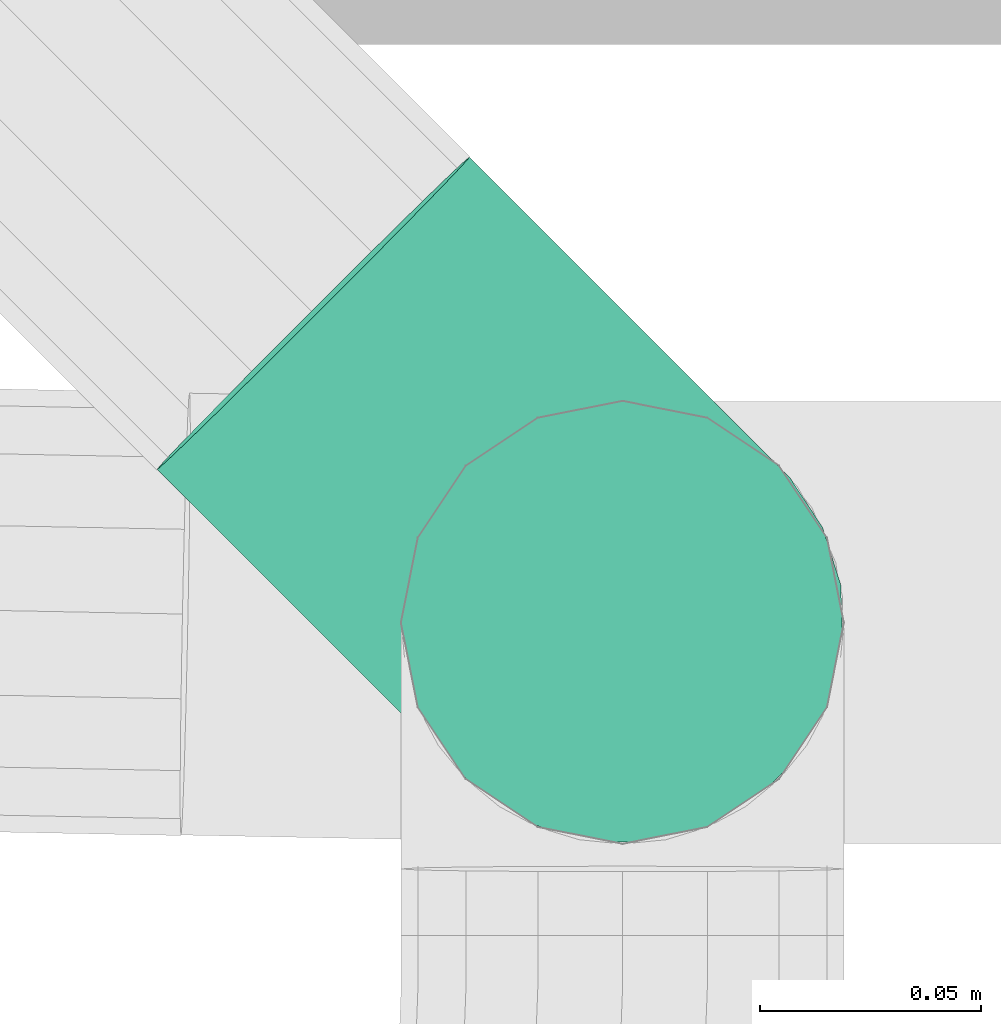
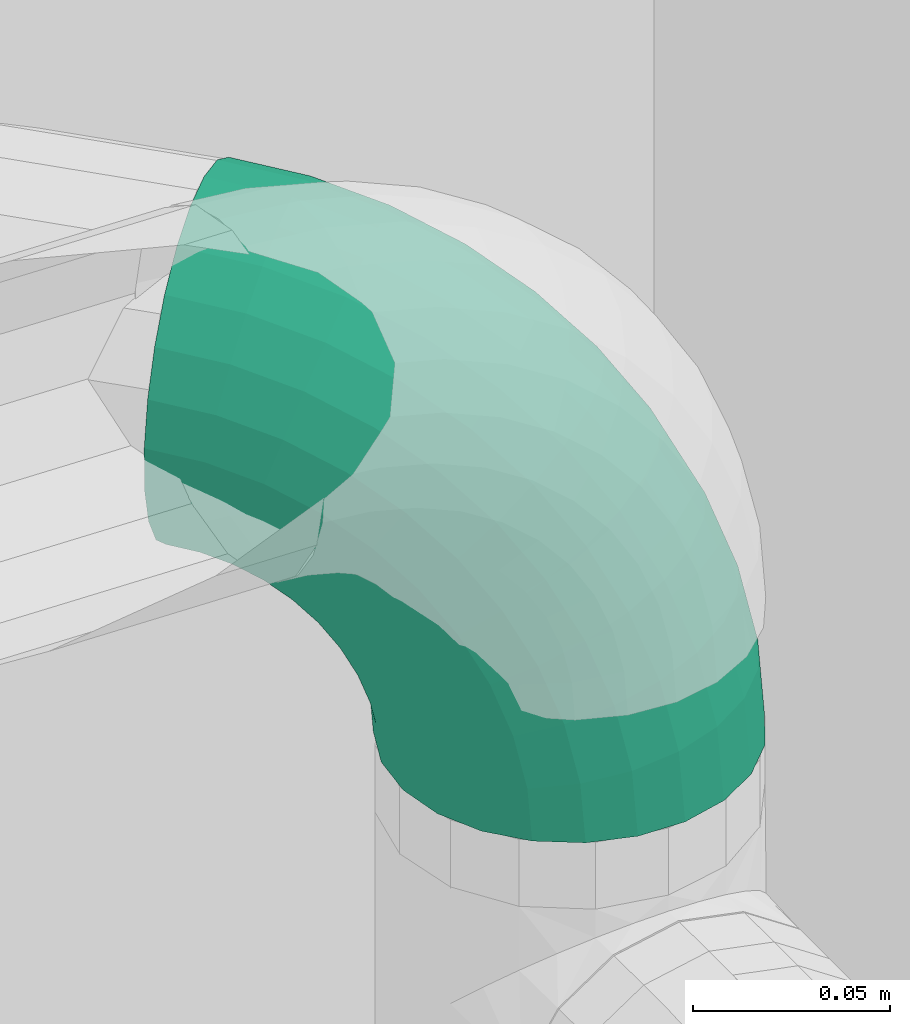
# One storey, part 17 of 22: 1 flow fitting.
"""IFC2X3 building model written with IfcOpenShell, lengths in metres."""

from ifc_helpers import new_model, entity, si_unit, converted_unit, derived_unit, money_unit, direction, frame, origin_with_axes, place, context, subcontext, project, spatial, open_shell, surface_model, material, type_object, element, save


model = new_model("IFC2X3")

# Units and contexts
model_context = context("Model", 3, precision=1e-05, world=origin_with_axes(), true_north=direction((0.0, 1.0)))
body_context = subcontext(model_context, "Body", "Model", "MODEL_VIEW", scale=1.0)
ifc_project = project(units=[si_unit("LENGTHUNIT", "METRE"), si_unit("AREAUNIT", "SQUARE_METRE"), si_unit("VOLUMEUNIT", "CUBIC_METRE"), si_unit("ABSORBEDDOSEUNIT", "GRAY"), si_unit("AMOUNTOFSUBSTANCEUNIT", "MOLE"), si_unit("DOSEEQUIVALENTUNIT", "SIEVERT"), si_unit("ELECTRICCAPACITANCEUNIT", "FARAD"), si_unit("ELECTRICCHARGEUNIT", "COULOMB"), si_unit("ELECTRICCONDUCTANCEUNIT", "SIEMENS"), si_unit("ELECTRICCURRENTUNIT", "AMPERE"), si_unit("ELECTRICRESISTANCEUNIT", "OHM"), si_unit("ELECTRICVOLTAGEUNIT", "VOLT"), si_unit("ENERGYUNIT", "JOULE"), si_unit("FORCEUNIT", "NEWTON"), si_unit("FREQUENCYUNIT", "HERTZ"), si_unit("ILLUMINANCEUNIT", "LUX"), si_unit("INDUCTANCEUNIT", "HENRY"), si_unit("LUMINOUSFLUXUNIT", "LUMEN"), si_unit("LUMINOUSINTENSITYUNIT", "CANDELA"), si_unit("MAGNETICFLUXDENSITYUNIT", "TESLA"), si_unit("MAGNETICFLUXUNIT", "WEBER"), si_unit("MASSUNIT", "GRAM"), converted_unit("PLANEANGLEUNIT", "degree", entity("IfcReal", 0.0174532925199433), si_unit("PLANEANGLEUNIT", "RADIAN"), dimensions=[0, 0, 0, 0, 0, 0, 0]), si_unit("POWERUNIT", "WATT"), si_unit("PRESSUREUNIT", "PASCAL"), si_unit("RADIOACTIVITYUNIT", "BECQUEREL"), si_unit("SOLIDANGLEUNIT", "STERADIAN"), si_unit("THERMODYNAMICTEMPERATUREUNIT", "KELVIN"), si_unit("TIMEUNIT", "SECOND"), derived_unit("ACCELERATIONUNIT", [(si_unit("LENGTHUNIT", "METRE"), 1), (si_unit("TIMEUNIT", "SECOND"), -2)]), derived_unit("ANGULARVELOCITYUNIT", [(converted_unit("PLANEANGLEUNIT", "degree", entity("IfcReal", 0.0174532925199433), si_unit("PLANEANGLEUNIT", "RADIAN"), dimensions=[0, 0, 0, 0, 0, 0, 0]), 1), (si_unit("TIMEUNIT", "SECOND"), -1)]), derived_unit("CURVATUREUNIT", [(converted_unit("PLANEANGLEUNIT", "degree", entity("IfcReal", 0.0174532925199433), si_unit("PLANEANGLEUNIT", "RADIAN"), dimensions=[0, 0, 0, 0, 0, 0, 0]), 1), (si_unit("LENGTHUNIT", "METRE"), -1)]), derived_unit("DYNAMICVISCOSITYUNIT", [(si_unit("PRESSUREUNIT", "PASCAL"), 1), (si_unit("TIMEUNIT", "SECOND"), 1)]), derived_unit("HEATFLUXDENSITYUNIT", [(si_unit("POWERUNIT", "WATT"), 1), (si_unit("LENGTHUNIT", "METRE"), -2)]), derived_unit("HEATINGVALUEUNIT", [(si_unit("ENERGYUNIT", "JOULE"), 1), (si_unit("MASSUNIT", "GRAM"), -1)]), derived_unit("INTEGERCOUNTRATEUNIT", [(si_unit("TIMEUNIT", "SECOND"), -1)]), derived_unit("IONCONCENTRATIONUNIT", [(si_unit("MASSUNIT", "GRAM"), 1), (si_unit("VOLUMEUNIT", "CUBIC_METRE"), -1)]), derived_unit("ISOTHERMALMOISTURECAPACITYUNIT", [(si_unit("VOLUMEUNIT", "CUBIC_METRE"), 1), (si_unit("MASSUNIT", "GRAM"), -1)]), derived_unit("KINEMATICVISCOSITYUNIT", [(si_unit("AREAUNIT", "SQUARE_METRE"), 1), (si_unit("TIMEUNIT", "SECOND"), -1)]), derived_unit("LINEARFORCEUNIT", [(si_unit("FORCEUNIT", "NEWTON"), 1), (si_unit("LENGTHUNIT", "METRE"), -1)]), derived_unit("LINEARMOMENTUNIT", [(si_unit("FORCEUNIT", "NEWTON"), 1), (si_unit("LENGTHUNIT", "METRE"), -1)]), derived_unit("LINEARSTIFFNESSUNIT", [(si_unit("FORCEUNIT", "NEWTON"), 1), (si_unit("LENGTHUNIT", "METRE"), -1)]), derived_unit("LINEARVELOCITYUNIT", [(si_unit("LENGTHUNIT", "METRE"), 1), (si_unit("TIMEUNIT", "SECOND"), -1)]), derived_unit("LUMINOUSINTENSITYDISTRIBUTIONUNIT", [(si_unit("LUMINOUSINTENSITYUNIT", "CANDELA"), 1), (si_unit("LUMINOUSFLUXUNIT", "LUMEN"), -1)]), derived_unit("MASSDENSITYUNIT", [(si_unit("MASSUNIT", "GRAM"), 1), (si_unit("VOLUMEUNIT", "CUBIC_METRE"), -1)]), derived_unit("MASSFLOWRATEUNIT", [(si_unit("MASSUNIT", "GRAM"), 1), (si_unit("TIMEUNIT", "SECOND"), -1)]), derived_unit("MASSPERLENGTHUNIT", [(si_unit("MASSUNIT", "GRAM"), 1), (si_unit("LENGTHUNIT", "METRE"), -1)]), derived_unit("MODULUSOFELASTICITYUNIT", [(si_unit("FORCEUNIT", "NEWTON"), 1), (si_unit("AREAUNIT", "SQUARE_METRE"), -1)]), derived_unit("MODULUSOFLINEARSUBGRADEREACTIONUNIT", [(si_unit("FORCEUNIT", "NEWTON"), 1), (si_unit("LENGTHUNIT", "METRE"), -2)]), derived_unit("MODULUSOFROTATIONALSUBGRADEREACTIONUNIT", [(si_unit("FORCEUNIT", "NEWTON"), 1), (si_unit("LENGTHUNIT", "METRE"), 1)]), derived_unit("MODULUSOFSUBGRADEREACTIONUNIT", [(si_unit("FORCEUNIT", "NEWTON"), 1), (si_unit("VOLUMEUNIT", "CUBIC_METRE"), -1)]), derived_unit("MOISTUREDIFFUSIVITYUNIT", [(si_unit("VOLUMEUNIT", "CUBIC_METRE"), 1), (si_unit("TIMEUNIT", "SECOND"), -1)]), derived_unit("MOLECULARWEIGHTUNIT", [(si_unit("MASSUNIT", "GRAM"), 1), (si_unit("AMOUNTOFSUBSTANCEUNIT", "MOLE"), -1)]), derived_unit("PLANARFORCEUNIT", [(si_unit("FORCEUNIT", "NEWTON"), 1), (si_unit("LENGTHUNIT", "METRE"), -2)]), derived_unit("ROTATIONALFREQUENCYUNIT", [(si_unit("TIMEUNIT", "SECOND"), -1)]), derived_unit("ROTATIONALMASSUNIT", [(si_unit("MASSUNIT", "GRAM"), 1), (si_unit("LENGTHUNIT", "METRE"), 2)]), derived_unit("ROTATIONALSTIFFNESSUNIT", [(si_unit("FORCEUNIT", "NEWTON"), 1), (si_unit("LENGTHUNIT", "METRE"), 1), (converted_unit("PLANEANGLEUNIT", "degree", entity("IfcReal", 0.0174532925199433), si_unit("PLANEANGLEUNIT", "RADIAN"), dimensions=[0, 0, 0, 0, 0, 0, 0]), -1)]), derived_unit("SECTIONAREAINTEGRALUNIT", [(si_unit("LENGTHUNIT", "METRE"), 5)]), derived_unit("SECTIONMODULUSUNIT", [(si_unit("LENGTHUNIT", "METRE"), 3)]), derived_unit("SHEARMODULUSUNIT", [(si_unit("FORCEUNIT", "NEWTON"), 1), (si_unit("AREAUNIT", "SQUARE_METRE"), -1)]), derived_unit("SOUNDPOWERUNIT", [(si_unit("ENERGYUNIT", "JOULE"), 1), (si_unit("TIMEUNIT", "SECOND"), -1)]), derived_unit("SPECIFICHEATCAPACITYUNIT", [(si_unit("FORCEUNIT", "NEWTON"), 1), (si_unit("MASSUNIT", "GRAM"), -1), (si_unit("THERMODYNAMICTEMPERATUREUNIT", "KELVIN"), -1)]), derived_unit("TEMPERATUREGRADIENTUNIT", [(si_unit("THERMODYNAMICTEMPERATUREUNIT", "KELVIN"), 1), (si_unit("LENGTHUNIT", "METRE"), -1)]), derived_unit("THERMALADMITTANCEUNIT", [(si_unit("POWERUNIT", "WATT"), 1), (si_unit("AREAUNIT", "SQUARE_METRE"), -1), (si_unit("THERMODYNAMICTEMPERATUREUNIT", "KELVIN"), -1)]), derived_unit("THERMALCONDUCTANCEUNIT", [(si_unit("POWERUNIT", "WATT"), 1), (si_unit("LENGTHUNIT", "METRE"), -1), (si_unit("THERMODYNAMICTEMPERATUREUNIT", "KELVIN"), -1)]), derived_unit("THERMALEXPANSIONCOEFFICIENTUNIT", [(si_unit("THERMODYNAMICTEMPERATUREUNIT", "KELVIN"), -1)]), derived_unit("THERMALRESISTANCEUNIT", [(si_unit("AREAUNIT", "SQUARE_METRE"), 1), (si_unit("POWERUNIT", "WATT"), -1)]), derived_unit("THERMALTRANSMITTANCEUNIT", [(si_unit("POWERUNIT", "WATT"), 1), (si_unit("AREAUNIT", "SQUARE_METRE"), -1), (si_unit("THERMODYNAMICTEMPERATUREUNIT", "KELVIN"), -1)]), derived_unit("TORQUEUNIT", [(si_unit("FORCEUNIT", "NEWTON"), 1), (si_unit("LENGTHUNIT", "METRE"), 1)]), derived_unit("VAPORPERMEABILITYUNIT", [(si_unit("MASSUNIT", "GRAM"), 1), (si_unit("TIMEUNIT", "SECOND"), -1)]), derived_unit("VOLUMETRICFLOWRATEUNIT", [(si_unit("VOLUMEUNIT", "CUBIC_METRE"), 1), (si_unit("TIMEUNIT", "SECOND"), -1)]), derived_unit("WARPINGCONSTANTUNIT", [(si_unit("LENGTHUNIT", "METRE"), 6)]), derived_unit("WARPINGMOMENTUNIT", [(si_unit("FORCEUNIT", "NEWTON"), 1), (si_unit("LENGTHUNIT", "METRE"), 2)]), money_unit("GBP")], contexts=[model_context])

# Site, building, storey, space
site_placement = place(None, origin_with_axes())
site = spatial("IfcSite", under=ifc_project, at=site_placement, Name="Site", CompositionType="ELEMENT")
building_placement = place(site_placement, origin_with_axes())
building = spatial("IfcBuilding", under=site, at=building_placement, Name="Building01", CompositionType="ELEMENT")
storey_placement = place(building_placement, frame((0.0, 0.0, 2.6), z_axis=(0.0, 0.0, 1.0), x_axis=(1.0, 0.0, 0.0)))
storey = spatial("IfcBuildingStorey", under=building, at=storey_placement, Name="MF", CompositionType="ELEMENT", Elevation=2.6)
space_placement = place(storey_placement, frame((15.816265, 6.196984, 0.0), z_axis=(0.0, 0.0, 1.0), x_axis=(1.0, 0.0, 0.0)))
space = spatial("IfcSpace", under=storey, at=space_placement, Name="WC", CompositionType="ELEMENT", InteriorOrExteriorSpace="NOTDEFINED")

# Flow fitting
ifc_material = material(Name="M_BSUK_ColdWater")
pipe_fitting_type = type_object("IfcPipeFittingType", Name="M-BmpElbow-DefaultElbow", PredefinedType="BEND")
placement = place(building_placement, origin_with_axes())
flow_fitting_placement = place(placement, frame((17.337119, 8.586738, 4.770046), z_axis=(0.00883814, -0.00883814, 0.99992188), x_axis=(0.70705155, -0.70705154, -0.01249902)))
element("IfcFlowFitting", 1, at=flow_fitting_placement, inside=space, type_object=pipe_fitting_type, material=ifc_material, Name="M-BmpElbow-DefaultElbow", ObjectType="M-BmpElbow-DefaultElbow", context=body_context, shape_type="SurfaceModel", body=[
    surface_model("IfcShellBasedSurfaceModel", [(0.008048, -0.01349, -0.048774), (0.0, -0.01349, -0.048146), (0.0, 0.0, -0.05), (0.00776, 0.0, -0.050606), (0.0159, -0.01349, -0.050644), (0.015332, 0.0, -0.052409), (0.023368, -0.01349, -0.05371), (0.022532, 0.0, -0.055365), (0.030269, -0.01349, -0.057897), (0.029187, 0.0, -0.059403), (0.036437, -0.01349, -0.063105), (0.035134, 0.0, -0.064424), (0.041721, -0.01349, -0.069207), (0.040229, 0.0, -0.070308), (0.045995, -0.01349, -0.076055), (0.04435, 0.0, -0.076912), (0.049154, -0.01349, -0.083484), (0.047396, 0.0, -0.084074), (0.051121, -0.01349, -0.091313), (0.049293, 0.0, -0.091623), (0.05185, -0.01349, -0.099352), (0.049996, 0.0, -0.099375), (0.00889, -0.025979, -0.043415), (0.0, -0.025979, -0.042721), (0.017564, -0.025979, -0.04548), (0.025813, -0.025979, -0.048867), (0.033436, -0.025979, -0.053493), (0.040248, -0.025979, -0.059245), (0.046086, -0.025979, -0.065986), (0.050807, -0.025979, -0.07355), (0.054296, -0.025979, -0.081756), (0.056469, -0.025979, -0.090404), (0.057275, -0.025979, -0.099284), (0.010223, -0.036542, -0.034926), (0.0, -0.036542, -0.034128), (0.020199, -0.036542, -0.037301), (0.029685, -0.036542, -0.041196), (0.038452, -0.036542, -0.046515), (0.046287, -0.036542, -0.053131), (0.053, -0.036542, -0.060883), (0.058429, -0.036542, -0.069582), (0.062442, -0.036542, -0.079019), (0.064941, -0.036542, -0.088964), (0.065867, -0.036542, -0.099177), (0.01195, -0.044394, -0.023936), (0.0, -0.044394, -0.023003), (0.02361, -0.044394, -0.026712), (0.034698, -0.044394, -0.031265), (0.044946, -0.044394, -0.037483), (0.054104, -0.044394, -0.045216), (0.061951, -0.044394, -0.054277), (0.068296, -0.044394, -0.064445), (0.072987, -0.044394, -0.075476), (0.075908, -0.044394, -0.0871), (0.076991, -0.044394, -0.099038), (0.013941, -0.048954, -0.011261), (0.0, -0.048954, -0.010173), (0.027544, -0.048954, -0.0145), (0.04048, -0.048954, -0.019811), (0.052435, -0.048954, -0.027065), (0.063119, -0.048954, -0.036087), (0.072274, -0.048954, -0.046657), (0.079677, -0.048954, -0.058521), (0.085149, -0.048954, -0.071389), (0.088558, -0.048954, -0.084951), (0.08982, -0.048954, -0.098877), (0.01605, -0.049883, 0.002159), (0.0, -0.049883, 0.003412), (0.03171, -0.049883, -0.00157), (0.046602, -0.049883, -0.007684), (0.060365, -0.049883, -0.016035), (0.072665, -0.049883, -0.026421), (0.083204, -0.049883, -0.03859), (0.091727, -0.049883, -0.052247), (0.098026, -0.049883, -0.067062), (0.101951, -0.049883, -0.082675), (0.103404, -0.049883, -0.098707), (0.018119, -0.047113, 0.015329), (0.0, -0.047113, 0.016744), (0.035798, -0.047113, 0.01112), (0.05261, -0.047113, 0.004218), (0.068147, -0.047113, -0.00521), (0.082033, -0.047113, -0.016935), (0.093931, -0.047113, -0.030673), (0.103552, -0.047113, -0.046091), (0.110664, -0.047113, -0.062816), (0.115094, -0.047113, -0.080441), (0.116735, -0.047113, -0.098541), (0.019995, -0.040848, 0.027273), (0.0, -0.040848, 0.028834), (0.039505, -0.040848, 0.022628), (0.058059, -0.040848, 0.01501), (0.075205, -0.040848, 0.004606), (0.090528, -0.040848, -0.008333), (0.103658, -0.040848, -0.023494), (0.114276, -0.040848, -0.040508), (0.122124, -0.040848, -0.058965), (0.127013, -0.040848, -0.078416), (0.128824, -0.040848, -0.09839), (0.021539, -0.031554, 0.037104), (0.0, -0.031554, 0.038786), (0.042557, -0.031554, 0.0321), (0.062543, -0.031554, 0.023894), (0.081014, -0.031554, 0.012686), (0.097521, -0.031554, -0.001252), (0.111665, -0.031554, -0.017584), (0.123103, -0.031554, -0.035913), (0.131557, -0.031554, -0.055795), (0.136824, -0.031554, -0.076749), (0.138775, -0.031554, -0.098265), (0.022638, -0.01992, 0.044093), (0.0, -0.01992, 0.045861), (0.044726, -0.01992, 0.038834), (0.065732, -0.01992, 0.03021), (0.085144, -0.01992, 0.018431), (0.102492, -0.01992, 0.003782), (0.117357, -0.01992, -0.013383), (0.129378, -0.01992, -0.032646), (0.138264, -0.01992, -0.053542), (0.143799, -0.01992, -0.075563), (0.145849, -0.01992, -0.098177), (0.023208, -0.006808, 0.047722), (0.0, -0.006808, 0.049534), (0.045853, -0.006808, 0.042331), (0.067387, -0.006808, 0.03349), (0.087288, -0.006808, 0.021414), (0.105074, -0.006808, 0.006395), (0.120313, -0.006808, -0.011201), (0.132637, -0.006808, -0.03095), (0.141746, -0.006808, -0.052372), (0.147421, -0.006808, -0.074948), (0.149523, -0.006808, -0.098131), (0.023208, 0.006808, 0.047722), (0.0, 0.006808, 0.049534), (0.045853, 0.006808, 0.042331), (0.067387, 0.006808, 0.03349), (0.087288, 0.006808, 0.021414), (0.105074, 0.006808, 0.006395), (0.120313, 0.006808, -0.011201), (0.132637, 0.006808, -0.03095), (0.141746, 0.006808, -0.052372), (0.147421, 0.006808, -0.074948), (0.149523, 0.006808, -0.098131), (0.022638, 0.01992, 0.044093), (0.0, 0.01992, 0.045861), (0.044726, 0.01992, 0.038834), (0.065732, 0.01992, 0.03021), (0.085144, 0.01992, 0.018431), (0.102492, 0.01992, 0.003782), (0.117357, 0.01992, -0.013383), (0.129378, 0.01992, -0.032646), (0.138264, 0.01992, -0.053542), (0.143799, 0.01992, -0.075563), (0.145849, 0.01992, -0.098177), (0.021539, 0.031554, 0.037104), (0.0, 0.031554, 0.038786), (0.042557, 0.031554, 0.0321), (0.062543, 0.031554, 0.023894), (0.081014, 0.031554, 0.012686), (0.097521, 0.031554, -0.001252), (0.111665, 0.031554, -0.017584), (0.123103, 0.031554, -0.035913), (0.131557, 0.031554, -0.055795), (0.136824, 0.031554, -0.076749), (0.138775, 0.031554, -0.098265), (0.019995, 0.040848, 0.027273), (0.0, 0.040848, 0.028834), (0.039505, 0.040848, 0.022628), (0.058059, 0.040848, 0.01501), (0.075205, 0.040848, 0.004606), (0.090528, 0.040848, -0.008333), (0.103658, 0.040848, -0.023494), (0.114276, 0.040848, -0.040508), (0.122124, 0.040848, -0.058965), (0.127013, 0.040848, -0.078416), (0.128824, 0.040848, -0.09839), (0.018119, 0.047113, 0.015329), (0.0, 0.047113, 0.016744), (0.035798, 0.047113, 0.01112), (0.05261, 0.047113, 0.004218), (0.068147, 0.047113, -0.00521), (0.082033, 0.047113, -0.016935), (0.093931, 0.047113, -0.030673), (0.103552, 0.047113, -0.046091), (0.110664, 0.047113, -0.062816), (0.115094, 0.047113, -0.080441), (0.116735, 0.047113, -0.098541), (0.01605, 0.049883, 0.002159), (0.0, 0.049883, 0.003412), (0.03171, 0.049883, -0.00157), (0.046602, 0.049883, -0.007684), (0.060365, 0.049883, -0.016035), (0.072665, 0.049883, -0.026421), (0.083204, 0.049883, -0.03859), (0.091727, 0.049883, -0.052247), (0.098026, 0.049883, -0.067062), (0.101951, 0.049883, -0.082675), (0.103404, 0.049883, -0.098707), (0.013941, 0.048954, -0.011261), (0.0, 0.048954, -0.010173), (0.027544, 0.048954, -0.0145), (0.04048, 0.048954, -0.019811), (0.052435, 0.048954, -0.027065), (0.063119, 0.048954, -0.036087), (0.072274, 0.048954, -0.046657), (0.079677, 0.048954, -0.058521), (0.085149, 0.048954, -0.071389), (0.088558, 0.048954, -0.084951), (0.08982, 0.048954, -0.098877), (0.01195, 0.044394, -0.023936), (0.0, 0.044394, -0.023003), (0.02361, 0.044394, -0.026712), (0.034698, 0.044394, -0.031265), (0.044946, 0.044394, -0.037483), (0.054104, 0.044394, -0.045216), (0.061951, 0.044394, -0.054277), (0.068296, 0.044394, -0.064445), (0.072987, 0.044394, -0.075476), (0.075908, 0.044394, -0.0871), (0.076991, 0.044394, -0.099038), (0.010223, 0.036542, -0.034926), (0.0, 0.036542, -0.034128), (0.020199, 0.036542, -0.037301), (0.029685, 0.036542, -0.041196), (0.038452, 0.036542, -0.046515), (0.046287, 0.036542, -0.053131), (0.053, 0.036542, -0.060883), (0.058429, 0.036542, -0.069582), (0.062442, 0.036542, -0.079019), (0.064941, 0.036542, -0.088964), (0.065867, 0.036542, -0.099177), (0.00889, 0.025979, -0.043415), (0.0, 0.025979, -0.042721), (0.017564, 0.025979, -0.04548), (0.025813, 0.025979, -0.048867), (0.033436, 0.025979, -0.053493), (0.040248, 0.025979, -0.059245), (0.046086, 0.025979, -0.065986), (0.050807, 0.025979, -0.07355), (0.054296, 0.025979, -0.081756), (0.056469, 0.025979, -0.090404), (0.057275, 0.025979, -0.099284), (0.008048, 0.01349, -0.048774), (0.0, 0.01349, -0.048146), (0.0159, 0.01349, -0.050644), (0.023368, 0.01349, -0.05371), (0.030269, 0.01349, -0.057897), (0.036437, 0.01349, -0.063105), (0.041721, 0.01349, -0.069207), (0.045995, 0.01349, -0.076055), (0.049154, 0.01349, -0.083484), (0.051121, 0.01349, -0.091313), (0.05185, 0.01349, -0.099352)], [open_shell([[[0, 1, 2, 3]], [[4, 0, 3, 5]], [[6, 4, 5, 7]], [[8, 6, 7, 9]], [[10, 8, 9, 11]], [[12, 10, 11, 13]], [[14, 12, 13, 15]], [[16, 14, 15, 17]], [[18, 16, 17, 19]], [[20, 18, 19, 21]], [[22, 23, 1, 0]], [[24, 22, 0, 4]], [[25, 24, 4, 6]], [[26, 25, 6, 8]], [[27, 26, 8, 10]], [[28, 27, 10, 12]], [[29, 28, 12, 14]], [[30, 29, 14, 16]], [[31, 30, 16, 18]], [[32, 31, 18, 20]], [[33, 34, 23, 22]], [[35, 33, 22, 24]], [[36, 35, 24, 25]], [[37, 36, 25, 26]], [[38, 37, 26, 27]], [[39, 38, 27, 28]], [[40, 39, 28, 29]], [[41, 40, 29, 30]], [[42, 41, 30, 31]], [[43, 42, 31, 32]], [[44, 45, 34, 33]], [[46, 44, 33, 35]], [[47, 46, 35, 36]], [[48, 47, 36, 37]], [[49, 48, 37, 38]], [[50, 49, 38, 39]], [[51, 50, 39, 40]], [[52, 51, 40, 41]], [[53, 52, 41, 42]], [[54, 53, 42, 43]], [[55, 56, 45, 44]], [[57, 55, 44, 46]], [[58, 57, 46, 47]], [[59, 58, 47, 48]], [[60, 59, 48, 49]], [[61, 60, 49, 50]], [[62, 61, 50, 51]], [[63, 62, 51, 52]], [[64, 63, 52, 53]], [[65, 64, 53, 54]], [[66, 67, 56, 55]], [[68, 66, 55, 57]], [[69, 68, 57, 58]], [[70, 69, 58, 59]], [[71, 70, 59, 60]], [[72, 71, 60, 61]], [[73, 72, 61, 62]], [[74, 73, 62, 63]], [[75, 74, 63, 64]], [[76, 75, 64, 65]], [[77, 78, 67, 66]], [[79, 77, 66, 68]], [[80, 79, 68, 69]], [[81, 80, 69, 70]], [[82, 81, 70, 71]], [[83, 82, 71, 72]], [[84, 83, 72, 73]], [[85, 84, 73, 74]], [[86, 85, 74, 75]], [[87, 86, 75, 76]], [[88, 89, 78, 77]], [[90, 88, 77, 79]], [[91, 90, 79, 80]], [[92, 91, 80, 81]], [[93, 92, 81, 82]], [[94, 93, 82, 83]], [[95, 94, 83, 84]], [[96, 95, 84, 85]], [[97, 96, 85, 86]], [[98, 97, 86, 87]], [[99, 100, 89, 88]], [[101, 99, 88, 90]], [[102, 101, 90, 91]], [[103, 102, 91, 92]], [[104, 103, 92, 93]], [[105, 104, 93, 94]], [[106, 105, 94, 95]], [[107, 106, 95, 96]], [[108, 107, 96, 97]], [[109, 108, 97, 98]], [[110, 111, 100, 99]], [[112, 110, 99, 101]], [[113, 112, 101, 102]], [[114, 113, 102, 103]], [[115, 114, 103, 104]], [[116, 115, 104, 105]], [[117, 116, 105, 106]], [[118, 117, 106, 107]], [[119, 118, 107, 108]], [[120, 119, 108, 109]], [[121, 122, 111, 110]], [[123, 121, 110, 112]], [[124, 123, 112, 113]], [[125, 124, 113, 114]], [[126, 125, 114, 115]], [[127, 126, 115, 116]], [[128, 127, 116, 117]], [[129, 128, 117, 118]], [[130, 129, 118, 119]], [[131, 130, 119, 120]], [[132, 133, 122, 121]], [[134, 132, 121, 123]], [[135, 134, 123, 124]], [[136, 135, 124, 125]], [[137, 136, 125, 126]], [[138, 137, 126, 127]], [[139, 138, 127, 128]], [[140, 139, 128, 129]], [[141, 140, 129, 130]], [[142, 141, 130, 131]], [[143, 144, 133, 132]], [[145, 143, 132, 134]], [[146, 145, 134, 135]], [[147, 146, 135, 136]], [[148, 147, 136, 137]], [[149, 148, 137, 138]], [[150, 149, 138, 139]], [[151, 150, 139, 140]], [[152, 151, 140, 141]], [[153, 152, 141, 142]], [[154, 155, 144, 143]], [[156, 154, 143, 145]], [[157, 156, 145, 146]], [[158, 157, 146, 147]], [[159, 158, 147, 148]], [[160, 159, 148, 149]], [[161, 160, 149, 150]], [[162, 161, 150, 151]], [[163, 162, 151, 152]], [[164, 163, 152, 153]], [[165, 166, 155, 154]], [[167, 165, 154, 156]], [[168, 167, 156, 157]], [[169, 168, 157, 158]], [[170, 169, 158, 159]], [[171, 170, 159, 160]], [[172, 171, 160, 161]], [[173, 172, 161, 162]], [[174, 173, 162, 163]], [[175, 174, 163, 164]], [[176, 177, 166, 165]], [[178, 176, 165, 167]], [[179, 178, 167, 168]], [[180, 179, 168, 169]], [[181, 180, 169, 170]], [[182, 181, 170, 171]], [[183, 182, 171, 172]], [[184, 183, 172, 173]], [[185, 184, 173, 174]], [[186, 185, 174, 175]], [[187, 188, 177, 176]], [[189, 187, 176, 178]], [[190, 189, 178, 179]], [[191, 190, 179, 180]], [[192, 191, 180, 181]], [[193, 192, 181, 182]], [[194, 193, 182, 183]], [[195, 194, 183, 184]], [[196, 195, 184, 185]], [[197, 196, 185, 186]], [[198, 199, 188, 187]], [[200, 198, 187, 189]], [[201, 200, 189, 190]], [[202, 201, 190, 191]], [[203, 202, 191, 192]], [[204, 203, 192, 193]], [[205, 204, 193, 194]], [[206, 205, 194, 195]], [[207, 206, 195, 196]], [[208, 207, 196, 197]], [[209, 210, 199, 198]], [[211, 209, 198, 200]], [[212, 211, 200, 201]], [[213, 212, 201, 202]], [[214, 213, 202, 203]], [[215, 214, 203, 204]], [[216, 215, 204, 205]], [[217, 216, 205, 206]], [[218, 217, 206, 207]], [[219, 218, 207, 208]], [[220, 221, 210, 209]], [[222, 220, 209, 211]], [[223, 222, 211, 212]], [[224, 223, 212, 213]], [[225, 224, 213, 214]], [[226, 225, 214, 215]], [[227, 226, 215, 216]], [[228, 227, 216, 217]], [[229, 228, 217, 218]], [[230, 229, 218, 219]], [[231, 232, 221, 220]], [[233, 231, 220, 222]], [[234, 233, 222, 223]], [[235, 234, 223, 224]], [[236, 235, 224, 225]], [[237, 236, 225, 226]], [[238, 237, 226, 227]], [[239, 238, 227, 228]], [[240, 239, 228, 229]], [[241, 240, 229, 230]], [[242, 243, 232, 231]], [[244, 242, 231, 233]], [[245, 244, 233, 234]], [[246, 245, 234, 235]], [[247, 246, 235, 236]], [[248, 247, 236, 237]], [[249, 248, 237, 238]], [[250, 249, 238, 239]], [[251, 250, 239, 240]], [[252, 251, 240, 241]], [[3, 2, 243, 242]], [[5, 3, 242, 244]], [[7, 5, 244, 245]], [[9, 7, 245, 246]], [[11, 9, 246, 247]], [[13, 11, 247, 248]], [[15, 13, 248, 249]], [[17, 15, 249, 250]], [[19, 17, 250, 251]], [[21, 19, 251, 252]]])]),
])

save(model, "model.ifc")
